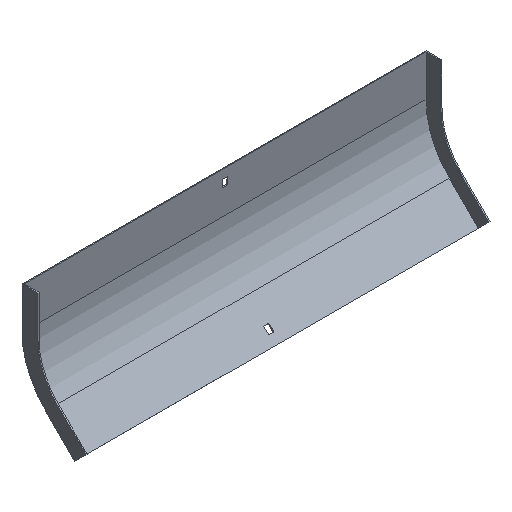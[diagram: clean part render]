
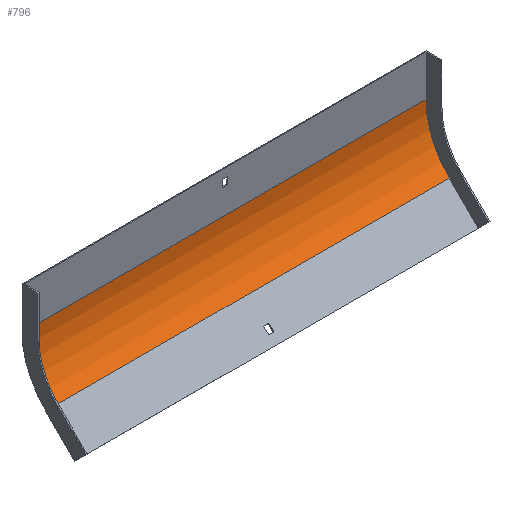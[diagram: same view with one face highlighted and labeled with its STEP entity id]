
A CAD part, isometric view. The second image highlights one B-rep face of the part: STEP entity #796.
In plain terms, the highlighted cylindrical face has radius 100 mm (diameter 200 mm), a partial arc.
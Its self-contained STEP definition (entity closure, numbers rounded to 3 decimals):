
#75 = DIRECTION ( 'NONE',  ( -1., 0., 0. ) ) ;
#138 = CARTESIAN_POINT ( 'NONE',  ( 253.5, -101.5, -51.54 ) ) ;
#148 = EDGE_LOOP ( 'NONE', ( #347, #317, #466, #579 ) ) ;
#157 = AXIS2_PLACEMENT_3D ( 'NONE', #138, #75, #676 ) ;
#158 = CIRCLE ( 'NONE', #615, 100. ) ;
#159 = CARTESIAN_POINT ( 'NONE',  ( 253.5, -1.5, -51.54 ) ) ;
#187 = VERTEX_POINT ( 'NONE', #436 ) ;
#206 = EDGE_CURVE ( 'NONE', #768, #413, #158, .T. ) ;
#228 = AXIS2_PLACEMENT_3D ( 'NONE', #522, #669, #662 ) ;
#317 = ORIENTED_EDGE ( 'NONE', *, *, #424, .F. ) ;
#347 = ORIENTED_EDGE ( 'NONE', *, *, #206, .F. ) ;
#374 = CARTESIAN_POINT ( 'NONE',  ( 252., -1.5, -51.54 ) ) ;
#412 = EDGE_CURVE ( 'NONE', #187, #570, #756, .T. ) ;
#413 = VERTEX_POINT ( 'NONE', #787 ) ;
#424 = EDGE_CURVE ( 'NONE', #187, #768, #457, .T. ) ;
#436 = CARTESIAN_POINT ( 'NONE',  ( 252., -30.789, -122.251 ) ) ;
#457 = LINE ( 'NONE', #595, #575 ) ;
#466 = ORIENTED_EDGE ( 'NONE', *, *, #412, .T. ) ;
#470 = CARTESIAN_POINT ( 'NONE',  ( -252., -30.789, -122.251 ) ) ;
#522 = CARTESIAN_POINT ( 'NONE',  ( 252., -101.5, -51.54 ) ) ;
#537 = CYLINDRICAL_SURFACE ( 'NONE', #157, 100. ) ;
#570 = VERTEX_POINT ( 'NONE', #374 ) ;
#575 = VECTOR ( 'NONE', #720, 1000. ) ;
#579 = ORIENTED_EDGE ( 'NONE', *, *, #861, .T. ) ;
#595 = CARTESIAN_POINT ( 'NONE',  ( 253.5, -30.789, -122.251 ) ) ;
#615 = AXIS2_PLACEMENT_3D ( 'NONE', #628, #766, #817 ) ;
#628 = CARTESIAN_POINT ( 'NONE',  ( -252., -101.5, -51.54 ) ) ;
#662 = DIRECTION ( 'NONE',  ( 0., 0., 1. ) ) ;
#669 = DIRECTION ( 'NONE',  ( 1., 0., 0. ) ) ;
#676 = DIRECTION ( 'NONE',  ( 0., 0., 1. ) ) ;
#692 = DIRECTION ( 'NONE',  ( -1., 0., 0. ) ) ;
#720 = DIRECTION ( 'NONE',  ( -1., 0., 0. ) ) ;
#726 = VECTOR ( 'NONE', #692, 1000. ) ;
#754 = LINE ( 'NONE', #159, #726 ) ;
#756 = CIRCLE ( 'NONE', #228, 100. ) ;
#766 = DIRECTION ( 'NONE',  ( 1., 0., 0. ) ) ;
#768 = VERTEX_POINT ( 'NONE', #470 ) ;
#787 = CARTESIAN_POINT ( 'NONE',  ( -252., -1.5, -51.54 ) ) ;
#796 = ADVANCED_FACE ( 'NONE', ( #842 ), #537, .F. ) ;
#817 = DIRECTION ( 'NONE',  ( 0., 0., 1. ) ) ;
#842 = FACE_OUTER_BOUND ( 'NONE', #148, .T. ) ;
#861 = EDGE_CURVE ( 'NONE', #570, #413, #754, .T. ) ;
